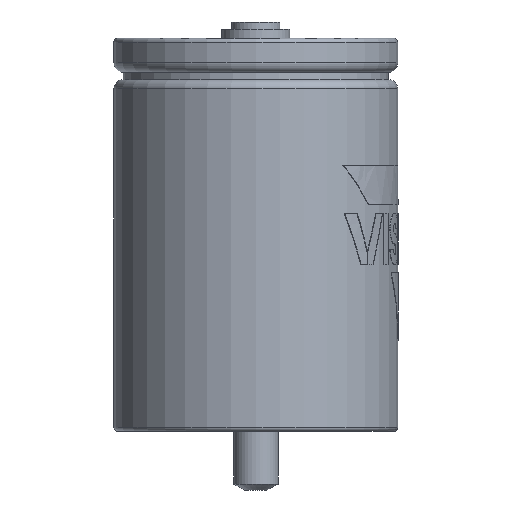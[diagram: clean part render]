
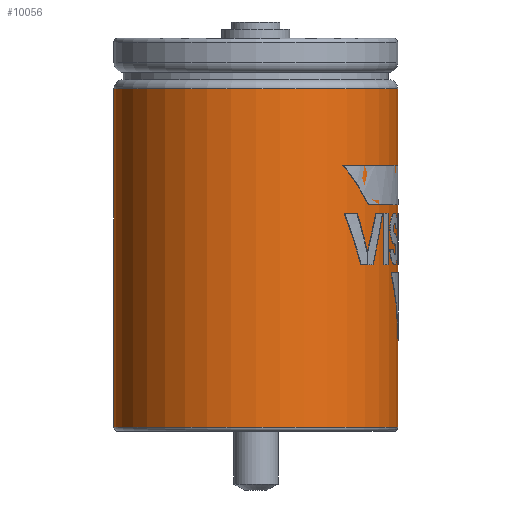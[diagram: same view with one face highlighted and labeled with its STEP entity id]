
A CAD part, left-side view. The second image highlights one B-rep face of the part: STEP entity #10056.
In plain terms, the highlighted cylindrical face has radius 38.2 mm (diameter 76.4 mm), a full revolution.
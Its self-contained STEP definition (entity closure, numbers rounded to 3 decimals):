
#9989 = TOROIDAL_SURFACE('',#9990,37.1,1.1);
#9990 = AXIS2_PLACEMENT_3D('',#9991,#9992,#9993);
#9991 = CARTESIAN_POINT('',(0.,0.,-103.6));
#9992 = DIRECTION('',(0.,0.,1.));
#9993 = DIRECTION('',(1.,0.,0.));
#10006 = VERTEX_POINT('',#10007);
#10007 = CARTESIAN_POINT('',(38.2,0.,-103.6));
#10029 = EDGE_CURVE('',#10006,#10006,#10030,.T.);
#10030 = SURFACE_CURVE('',#10031,(#10036,#10043),.PCURVE_S1.);
#10031 = CIRCLE('',#10032,38.2);
#10032 = AXIS2_PLACEMENT_3D('',#10033,#10034,#10035);
#10033 = CARTESIAN_POINT('',(0.,0.,-103.6));
#10034 = DIRECTION('',(0.,-0.,1.));
#10035 = DIRECTION('',(1.,0.,0.));
#10036 = PCURVE('',#9989,#10037);
#10037 = DEFINITIONAL_REPRESENTATION('',(#10038),#10042);
#10038 = LINE('',#10039,#10040);
#10039 = CARTESIAN_POINT('',(0.,6.283));
#10040 = VECTOR('',#10041,1.);
#10041 = DIRECTION('',(1.,0.));
#10042 = ( GEOMETRIC_REPRESENTATION_CONTEXT(2) 
PARAMETRIC_REPRESENTATION_CONTEXT() REPRESENTATION_CONTEXT('2D SPACE',''
  ) );
#10043 = PCURVE('',#10044,#10049);
#10044 = CYLINDRICAL_SURFACE('',#10045,38.2);
#10045 = AXIS2_PLACEMENT_3D('',#10046,#10047,#10048);
#10046 = CARTESIAN_POINT('',(0.,0.,-103.6));
#10047 = DIRECTION('',(0.,0.,1.));
#10048 = DIRECTION('',(1.,0.,0.));
#10049 = DEFINITIONAL_REPRESENTATION('',(#10050),#10054);
#10050 = LINE('',#10051,#10052);
#10051 = CARTESIAN_POINT('',(0.,0.));
#10052 = VECTOR('',#10053,1.);
#10053 = DIRECTION('',(1.,0.));
#10054 = ( GEOMETRIC_REPRESENTATION_CONTEXT(2) 
PARAMETRIC_REPRESENTATION_CONTEXT() REPRESENTATION_CONTEXT('2D SPACE',''
  ) );
#10056 = ADVANCED_FACE('',(#10057),#10044,.T.);
#10057 = FACE_BOUND('',#10058,.T.);
#10058 = EDGE_LOOP('',(#10059,#10060,#10083,#10110));
#10059 = ORIENTED_EDGE('',*,*,#10029,.T.);
#10060 = ORIENTED_EDGE('',*,*,#10061,.T.);
#10061 = EDGE_CURVE('',#10006,#10062,#10064,.T.);
#10062 = VERTEX_POINT('',#10063);
#10063 = CARTESIAN_POINT('',(38.2,0.,-12.5));
#10064 = SEAM_CURVE('',#10065,(#10069,#10076),.PCURVE_S1.);
#10065 = LINE('',#10066,#10067);
#10066 = CARTESIAN_POINT('',(38.2,0.,-103.6));
#10067 = VECTOR('',#10068,1.);
#10068 = DIRECTION('',(0.,0.,1.));
#10069 = PCURVE('',#10044,#10070);
#10070 = DEFINITIONAL_REPRESENTATION('',(#10071),#10075);
#10071 = LINE('',#10072,#10073);
#10072 = CARTESIAN_POINT('',(0.,0.));
#10073 = VECTOR('',#10074,1.);
#10074 = DIRECTION('',(0.,1.));
#10075 = ( GEOMETRIC_REPRESENTATION_CONTEXT(2) 
PARAMETRIC_REPRESENTATION_CONTEXT() REPRESENTATION_CONTEXT('2D SPACE',''
  ) );
#10076 = PCURVE('',#10044,#10077);
#10077 = DEFINITIONAL_REPRESENTATION('',(#10078),#10082);
#10078 = LINE('',#10079,#10080);
#10079 = CARTESIAN_POINT('',(6.283,0.));
#10080 = VECTOR('',#10081,1.);
#10081 = DIRECTION('',(0.,1.));
#10082 = ( GEOMETRIC_REPRESENTATION_CONTEXT(2) 
PARAMETRIC_REPRESENTATION_CONTEXT() REPRESENTATION_CONTEXT('2D SPACE',''
  ) );
#10083 = ORIENTED_EDGE('',*,*,#10084,.F.);
#10084 = EDGE_CURVE('',#10062,#10062,#10085,.T.);
#10085 = SURFACE_CURVE('',#10086,(#10091,#10098),.PCURVE_S1.);
#10086 = CIRCLE('',#10087,38.2);
#10087 = AXIS2_PLACEMENT_3D('',#10088,#10089,#10090);
#10088 = CARTESIAN_POINT('',(0.,0.,-12.5));
#10089 = DIRECTION('',(0.,-0.,1.));
#10090 = DIRECTION('',(1.,0.,0.));
#10091 = PCURVE('',#10044,#10092);
#10092 = DEFINITIONAL_REPRESENTATION('',(#10093),#10097);
#10093 = LINE('',#10094,#10095);
#10094 = CARTESIAN_POINT('',(0.,91.1));
#10095 = VECTOR('',#10096,1.);
#10096 = DIRECTION('',(1.,0.));
#10097 = ( GEOMETRIC_REPRESENTATION_CONTEXT(2) 
PARAMETRIC_REPRESENTATION_CONTEXT() REPRESENTATION_CONTEXT('2D SPACE',''
  ) );
#10098 = PCURVE('',#10099,#10104);
#10099 = TOROIDAL_SURFACE('',#10100,35.7,2.5);
#10100 = AXIS2_PLACEMENT_3D('',#10101,#10102,#10103);
#10101 = CARTESIAN_POINT('',(0.,0.,-12.5));
#10102 = DIRECTION('',(0.,0.,1.));
#10103 = DIRECTION('',(1.,0.,0.));
#10104 = DEFINITIONAL_REPRESENTATION('',(#10105),#10109);
#10105 = LINE('',#10106,#10107);
#10106 = CARTESIAN_POINT('',(0.,0.));
#10107 = VECTOR('',#10108,1.);
#10108 = DIRECTION('',(1.,0.));
#10109 = ( GEOMETRIC_REPRESENTATION_CONTEXT(2) 
PARAMETRIC_REPRESENTATION_CONTEXT() REPRESENTATION_CONTEXT('2D SPACE',''
  ) );
#10110 = ORIENTED_EDGE('',*,*,#10061,.F.);
